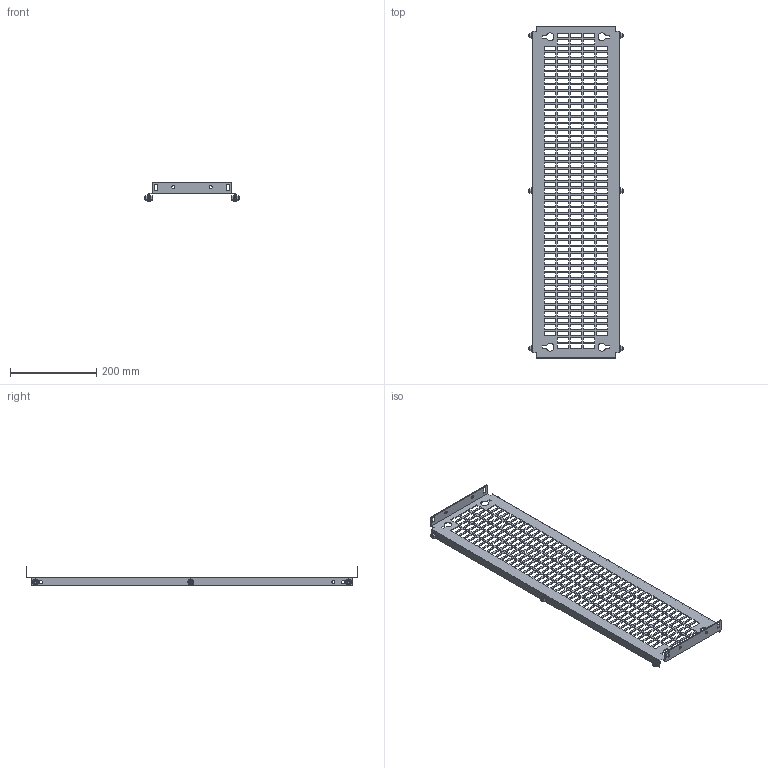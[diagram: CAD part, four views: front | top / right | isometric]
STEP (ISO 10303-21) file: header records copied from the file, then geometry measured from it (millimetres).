
FILE_DESCRIPTION(('Open CASCADE Model'),'2;1');
FILE_NAME('Open CASCADE Shape Model','2025-02-19T16:48:31',('Author'),( 'Open CASCADE'),'Open CASCADE STEP processor 7.8','Open CASCADE 7.8' ,'Unknown');
FILE_SCHEMA(('AUTOMOTIVE_DESIGN { 1 0 10303 214 1 1 1 1 }'));
Length unit declared in the file: millimetre
Products named in the file (4): Compound1; Solid1; Solid2; Solid3
Assembly tree (13 placements, depth 2):
  Compound1
    Solid1
    Solid2  x6
    Solid3  x6
Bounding box: 220 x 769 x 43 mm (x, y, z)
Volume: 243942.3 mm3; surface area: 283623.3 mm2
Topology: 13 solids, 13 shells, 1346 faces, 3782 edges, 2468 vertices
Faces by surface type: plane 1116, cone 102, bspline 72, cylinder 38, torus 18
Full cylindrical faces by diameter (mm): 5 x6, 6 x12, 7 x16
Entity records: 37140 total; most frequent: CARTESIAN_POINT 7051, ORIENTED_EDGE 6434, DIRECTION 5384, EDGE_CURVE 3217, LINE 3052, VECTOR 3052, VERTEX_POINT 2138, FACE_BOUND 1611
